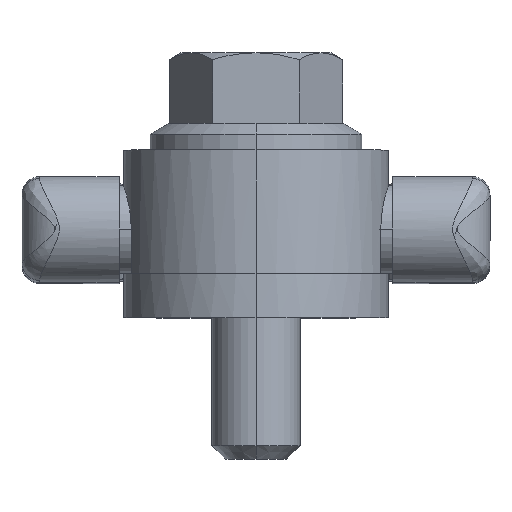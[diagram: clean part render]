
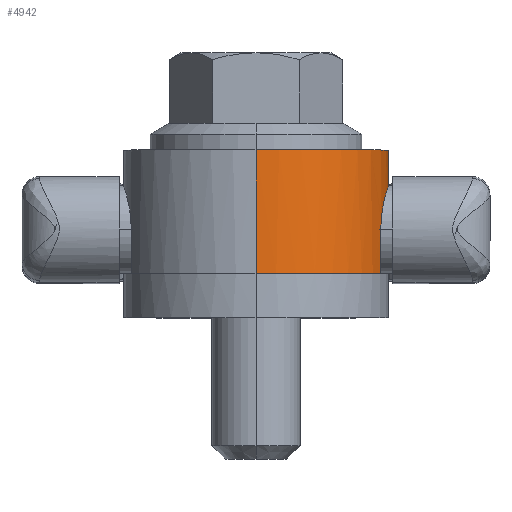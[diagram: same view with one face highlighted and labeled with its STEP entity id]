
A CAD part, top view. The second image highlights one B-rep face of the part: STEP entity #4942.
In plain terms, the highlighted cylindrical face has radius 15 mm (diameter 30 mm), a partial arc.
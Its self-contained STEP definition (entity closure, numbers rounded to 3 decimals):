
#2895 = CARTESIAN_POINT ( 'NONE',  ( 14.916, 14.744, -1.614 ) ) ;
#2896 = CARTESIAN_POINT ( 'NONE',  ( 14.947, 14.839, -1.301 ) ) ;
#2897 = CARTESIAN_POINT ( 'NONE',  ( 14.989, 14.967, -0.657 ) ) ;
#2898 = CARTESIAN_POINT ( 'NONE',  ( 15., 15., -0.323 ) ) ;
#2899 = CARTESIAN_POINT ( 'NONE',  ( 15., 15., 0.334 ) ) ;
#2900 = CARTESIAN_POINT ( 'NONE',  ( 14.989, 14.967, 0.66 ) ) ;
#2901 = CARTESIAN_POINT ( 'NONE',  ( 14.957, 14.87, 1.145 ) ) ;
#2902 = CARTESIAN_POINT ( 'NONE',  ( 14.944, 14.829, 1.306 ) ) ;
#2903 = CARTESIAN_POINT ( 'NONE',  ( 14.913, 14.733, 1.621 ) ) ;
#2904 = CARTESIAN_POINT ( 'NONE',  ( 14.895, 14.677, 1.774 ) ) ;
#2905 = CARTESIAN_POINT ( 'NONE',  ( 14.837, 14.49, 2.225 ) ) ;
#2906 = CARTESIAN_POINT ( 'NONE',  ( 14.791, 14.336, 2.512 ) ) ;
#2907 = CARTESIAN_POINT ( 'NONE',  ( 14.688, 13.97, 3.057 ) ) ;
#2908 = CARTESIAN_POINT ( 'NONE',  ( 14.633, 13.764, 3.307 ) ) ;
#2909 = CARTESIAN_POINT ( 'NONE',  ( 14.522, 13.306, 3.765 ) ) ;
#2910 = CARTESIAN_POINT ( 'NONE',  ( 14.465, 13.052, 3.974 ) ) ;
#2911 = CARTESIAN_POINT ( 'NONE',  ( 14.361, 12.51, 4.336 ) ) ;
#2912 = CARTESIAN_POINT ( 'NONE',  ( 14.313, 12.224, 4.49 ) ) ;
#2913 = CARTESIAN_POINT ( 'NONE',  ( 14.232, 11.62, 4.741 ) ) ;
#2930 = CARTESIAN_POINT ( 'NONE',  ( 14.198, 11.302, 4.839 ) ) ;
#2931 = CARTESIAN_POINT ( 'NONE',  ( 14.154, 10.66, 4.967 ) ) ;
#2932 = CARTESIAN_POINT ( 'NONE',  ( 14.142, 10.333, 5. ) ) ;
#2933 = CARTESIAN_POINT ( 'NONE',  ( 14.142, 10., 5. ) ) ;
#2934 = CARTESIAN_POINT ( 'NONE',  ( 14.142, 10., -5. ) ) ;
#2935 = B_SPLINE_CURVE_WITH_KNOTS ( 'NONE', 3,
 ( #2933, #2932, #2931, #2930, #2913, #2912, #2911, #2910, #2909, #2908, #2907, #2906, #2905, #2904, #2903, #2902, #2901, #2900, #2899, #2898, #2897, #2896, #2895, #3049, #3048, #3047, #3046, #3045, #3044, #3043, #3042, #3041, #3040, #3039, #3038, #3037 ),
 .UNSPECIFIED., .F., .F.,
 ( 4, 2, 2, 2, 2, 2, 2, 2, 2, 2, 2, 2, 2, 2, 2, 2, 2, 4 ),
 ( 0., 0.001, 0.002, 0.003, 0.004, 0.005, 0.006, 0.006, 0.007, 0.008, 0.009, 0.01, 0.011, 0.012, 0.013, 0.014, 0.015, 0.016 ),
 .UNSPECIFIED. ) ;
#2936 = LINE ( 'NONE', #3036, #3035 ) ;
#2937 = CARTESIAN_POINT ( 'NONE',  ( 14.142, 10., 5. ) ) ;
#2938 = DIRECTION ( 'NONE',  ( 0., 1., 0. ) ) ;
#2971 = CARTESIAN_POINT ( 'NONE',  ( 0., 5., 15. ) ) ;
#2972 = DIRECTION ( 'NONE',  ( 0., -1., 0. ) ) ;
#2973 = VECTOR ( 'NONE', #2972, 1000. ) ;
#2974 = CARTESIAN_POINT ( 'NONE',  ( 0., 22., 15. ) ) ;
#2975 = LINE ( 'NONE', #2974, #2973 ) ;
#2976 = CARTESIAN_POINT ( 'NONE',  ( 0., 19., -15. ) ) ;
#2977 = CARTESIAN_POINT ( 'NONE',  ( 0., 19., 15. ) ) ;
#2978 = DIRECTION ( 'NONE',  ( 0., 0., 1. ) ) ;
#2979 = DIRECTION ( 'NONE',  ( 0., 1., 0. ) ) ;
#2980 = CARTESIAN_POINT ( 'NONE',  ( 0., 19., 0. ) ) ;
#2981 = AXIS2_PLACEMENT_3D ( 'NONE', #2980, #2979, #2978 ) ;
#2982 = DIRECTION ( 'NONE',  ( 0., 0., -1. ) ) ;
#2983 = DIRECTION ( 'NONE',  ( 0., -1., 0. ) ) ;
#2984 = CIRCLE ( 'NONE', #2981, 15. ) ;
#3002 = CARTESIAN_POINT ( 'NONE',  ( 0., 5., -15. ) ) ;
#3003 = DIRECTION ( 'NONE',  ( 0., 0., -1. ) ) ;
#3004 = DIRECTION ( 'NONE',  ( 0., -1., 0. ) ) ;
#3005 = CARTESIAN_POINT ( 'NONE',  ( 0., 5., 0. ) ) ;
#3006 = AXIS2_PLACEMENT_3D ( 'NONE', #3005, #3004, #3003 ) ;
#3007 = CIRCLE ( 'NONE', #3006, 15. ) ;
#3033 = CARTESIAN_POINT ( 'NONE',  ( 14.142, 5., -5. ) ) ;
#3034 = DIRECTION ( 'NONE',  ( 0., -1., 0. ) ) ;
#3035 = VECTOR ( 'NONE', #3034, 1000. ) ;
#3036 = CARTESIAN_POINT ( 'NONE',  ( 14.142, 22., -5. ) ) ;
#3037 = CARTESIAN_POINT ( 'NONE',  ( 14.142, 10., -5. ) ) ;
#3038 = CARTESIAN_POINT ( 'NONE',  ( 14.142, 10.333, -5. ) ) ;
#3039 = CARTESIAN_POINT ( 'NONE',  ( 14.154, 10.665, -4.967 ) ) ;
#3040 = CARTESIAN_POINT ( 'NONE',  ( 14.199, 11.312, -4.836 ) ) ;
#3041 = CARTESIAN_POINT ( 'NONE',  ( 14.232, 11.624, -4.74 ) ) ;
#3042 = CARTESIAN_POINT ( 'NONE',  ( 14.313, 12.225, -4.489 ) ) ;
#3043 = CARTESIAN_POINT ( 'NONE',  ( 14.362, 12.517, -4.332 ) ) ;
#3044 = CARTESIAN_POINT ( 'NONE',  ( 14.466, 13.057, -3.97 ) ) ;
#3045 = CARTESIAN_POINT ( 'NONE',  ( 14.522, 13.306, -3.765 ) ) ;
#3046 = CARTESIAN_POINT ( 'NONE',  ( 14.633, 13.766, -3.305 ) ) ;
#3047 = CARTESIAN_POINT ( 'NONE',  ( 14.689, 13.975, -3.05 ) ) ;
#3048 = CARTESIAN_POINT ( 'NONE',  ( 14.791, 14.336, -2.511 ) ) ;
#3049 = CARTESIAN_POINT ( 'NONE',  ( 14.838, 14.491, -2.222 ) ) ;
#3058 = AXIS2_PLACEMENT_3D ( 'NONE', #3060, #2983, #2982 ) ;
#3059 = FACE_OUTER_BOUND ( 'NONE', #4943, .T. ) ;
#3060 = CARTESIAN_POINT ( 'NONE',  ( 0., 22., 0. ) ) ;
#3061 = CYLINDRICAL_SURFACE ( 'NONE', #3058, 15. ) ;
#3071 = VECTOR ( 'NONE', #2938, 1000. ) ;
#3072 = CARTESIAN_POINT ( 'NONE',  ( 14.142, 22., 5. ) ) ;
#3073 = LINE ( 'NONE', #3072, #3071 ) ;
#3074 = CARTESIAN_POINT ( 'NONE',  ( 14.142, 5., 5. ) ) ;
#3075 = DIRECTION ( 'NONE',  ( 0., 0., -1. ) ) ;
#3076 = DIRECTION ( 'NONE',  ( 0., -1., 0. ) ) ;
#3077 = CARTESIAN_POINT ( 'NONE',  ( 0., 5., 0. ) ) ;
#3078 = AXIS2_PLACEMENT_3D ( 'NONE', #3077, #3076, #3075 ) ;
#3079 = CIRCLE ( 'NONE', #3078, 15. ) ;
#3106 = DIRECTION ( 'NONE',  ( 0., -1., 0. ) ) ;
#3107 = VECTOR ( 'NONE', #3106, 1000. ) ;
#3108 = CARTESIAN_POINT ( 'NONE',  ( 0., 22., -15. ) ) ;
#3109 = LINE ( 'NONE', #3108, #3107 ) ;
#4942 = ADVANCED_FACE ( 'NONE', ( #3059 ), #3061, .T. ) ;
#4943 = EDGE_LOOP ( 'NONE', ( #4944, #4948, #4951, #4954, #4957, #4960, #4963, #4966 ) ) ;
#4944 = ORIENTED_EDGE ( 'NONE', *, *, #4945, .F. ) ;
#4945 = EDGE_CURVE ( 'NONE', #4946, #4947, #2984, .T. ) ;
#4946 = VERTEX_POINT ( 'NONE', #2977 ) ;
#4947 = VERTEX_POINT ( 'NONE', #2976 ) ;
#4948 = ORIENTED_EDGE ( 'NONE', *, *, #4949, .T. ) ;
#4949 = EDGE_CURVE ( 'NONE', #4946, #4950, #2975, .T. ) ;
#4950 = VERTEX_POINT ( 'NONE', #2971 ) ;
#4951 = ORIENTED_EDGE ( 'NONE', *, *, #4952, .F. ) ;
#4952 = EDGE_CURVE ( 'NONE', #4953, #4950, #3079, .T. ) ;
#4953 = VERTEX_POINT ( 'NONE', #3074 ) ;
#4954 = ORIENTED_EDGE ( 'NONE', *, *, #4955, .T. ) ;
#4955 = EDGE_CURVE ( 'NONE', #4953, #4956, #3073, .T. ) ;
#4956 = VERTEX_POINT ( 'NONE', #2937 ) ;
#4957 = ORIENTED_EDGE ( 'NONE', *, *, #4958, .T. ) ;
#4958 = EDGE_CURVE ( 'NONE', #4956, #4959, #2935, .T. ) ;
#4959 = VERTEX_POINT ( 'NONE', #2934 ) ;
#4960 = ORIENTED_EDGE ( 'NONE', *, *, #4961, .T. ) ;
#4961 = EDGE_CURVE ( 'NONE', #4959, #4962, #2936, .T. ) ;
#4962 = VERTEX_POINT ( 'NONE', #3033 ) ;
#4963 = ORIENTED_EDGE ( 'NONE', *, *, #4964, .F. ) ;
#4964 = EDGE_CURVE ( 'NONE', #4965, #4962, #3007, .T. ) ;
#4965 = VERTEX_POINT ( 'NONE', #3002 ) ;
#4966 = ORIENTED_EDGE ( 'NONE', *, *, #4982, .F. ) ;
#4982 = EDGE_CURVE ( 'NONE', #4947, #4965, #3109, .T. ) ;
